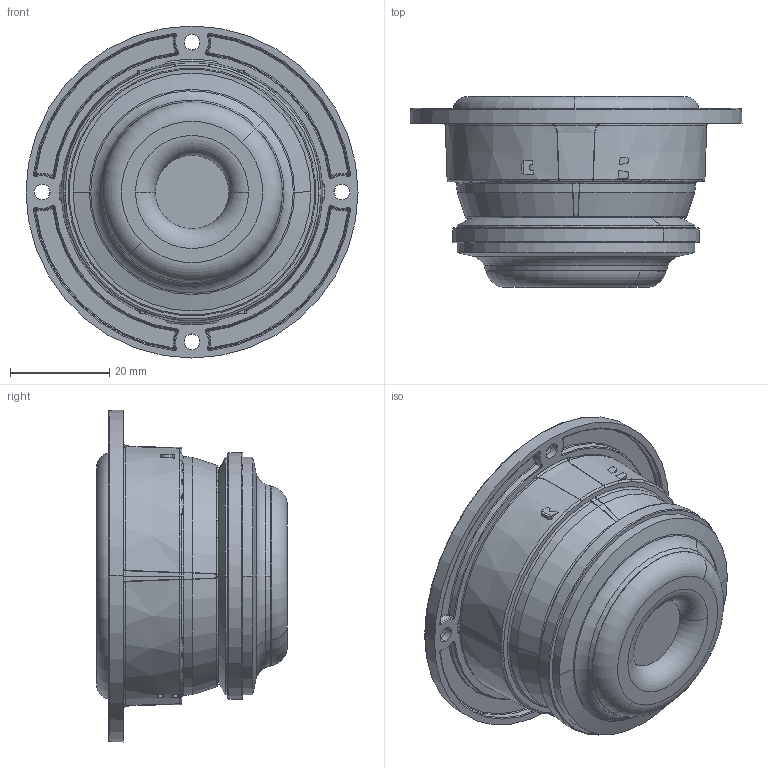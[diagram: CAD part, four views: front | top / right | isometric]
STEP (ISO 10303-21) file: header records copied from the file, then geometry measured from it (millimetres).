
FILE_DESCRIPTION (( 'STEP AP203' ), '1' );
FILE_NAME ('5F_8422T01.STEP', '2020-06-15T10:38:21', ( '' ), ( '' ), 'SwSTEP 2.0', 'SolidWorks 2019', '' );
FILE_SCHEMA (( 'CONFIG_CONTROL_DESIGN' ));
Length unit declared in the file: millimetre
Products named in the file (1): 5F_8422T01
Bounding box: 67 x 38.5 x 67 mm (x, y, z)
Volume: 64294.8 mm3; surface area: 14363.4 mm2
Topology: 1 solids, 2 shells, 423 faces, 1034 edges, 605 vertices
Faces by surface type: torus 137, cone 97, bspline 60, cylinder 52, plane 51, sphere 26
Entity records: 16556 total; most frequent: CARTESIAN_POINT 7069, ORIENTED_EDGE 2004, DIRECTION 2003, EDGE_CURVE 1002, AXIS2_PLACEMENT_3D 919, VERTEX_POINT 605, CIRCLE 555, EDGE_LOOP 455
